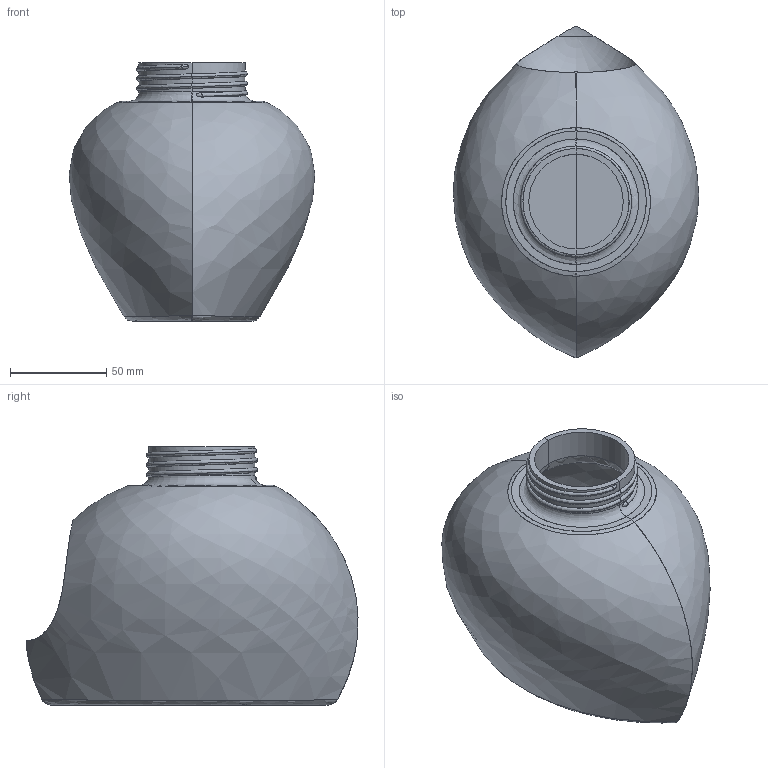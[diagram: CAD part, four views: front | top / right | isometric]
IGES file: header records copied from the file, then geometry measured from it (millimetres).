
Start section: START RECORD GO HERE.
Global section: file name: c1-Moslares_Fuste_Claudia-solucion-posible.igs; native system: IBM CATIA IGES - CATIA Version 5 Release 19 ; preprocessor: CATIA Version 5 Release 19 ; author: andres.garcia; organization: IQS; date: 20200131.143930; units: millimetre
Bounding box: 127.19 x 172.08 x 134 mm (x, y, z)
Surface area: 125552.5 mm2 (no closed solid volume)
Topology: 0 solids, 0 shells, 54 faces, 252 edges, 248 vertices
Faces by surface type: bspline 32, revolution 16, plane 6
